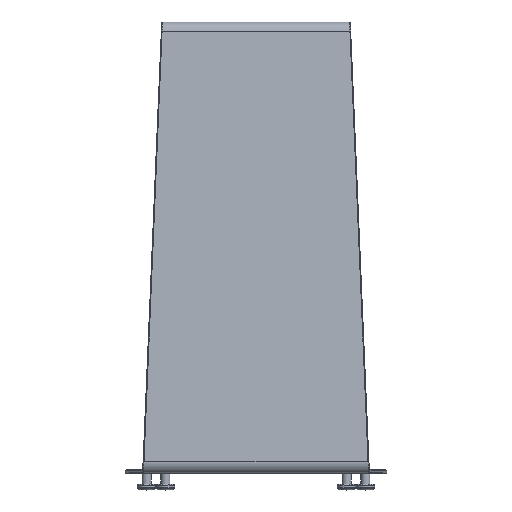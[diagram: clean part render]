
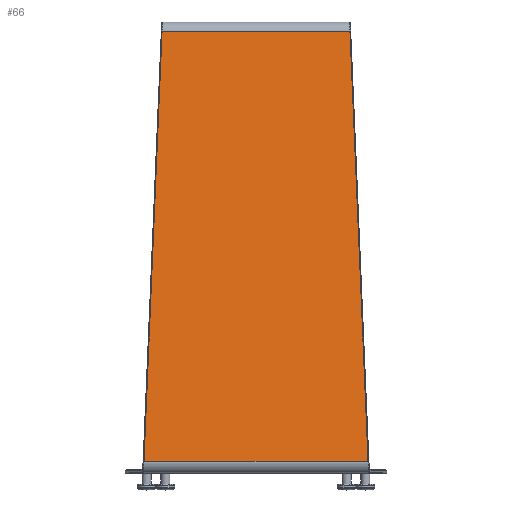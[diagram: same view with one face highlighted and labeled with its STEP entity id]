
A CAD part, left-side view. The second image highlights one B-rep face of the part: STEP entity #66.
In plain terms, the highlighted free-form (B-spline) face has degree [2, 1] with [3, 2] control points.
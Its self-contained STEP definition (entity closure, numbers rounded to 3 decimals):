
#66=ADVANCED_FACE('',(#187),#1616,.T.);
#187=FACE_OUTER_BOUND('',#322,.T.);
#322=EDGE_LOOP('',(#512,#513,#514,#515));
#512=ORIENTED_EDGE('',*,*,#981,.T.);
#513=ORIENTED_EDGE('',*,*,#955,.T.);
#514=ORIENTED_EDGE('',*,*,#968,.F.);
#515=ORIENTED_EDGE('',*,*,#954,.F.);
#954=EDGE_CURVE('',#1465,#1464,#1247,.T.);
#955=EDGE_CURVE('',#1466,#1467,#1248,.T.);
#968=EDGE_CURVE('',#1464,#1467,#1261,.T.);
#981=EDGE_CURVE('',#1465,#1466,#1274,.T.);
#1247=(
BOUNDED_CURVE()
B_SPLINE_CURVE(1,(#6018,#6019),.UNSPECIFIED.,.F.,.F.)
B_SPLINE_CURVE_WITH_KNOTS((2,2),(31.583,328.417),
 .UNSPECIFIED.)
CURVE()
GEOMETRIC_REPRESENTATION_ITEM()
RATIONAL_B_SPLINE_CURVE((1.,1.))
REPRESENTATION_ITEM('')
);
#1248=(
BOUNDED_CURVE()
B_SPLINE_CURVE(1,(#6020,#6021),.UNSPECIFIED.,.F.,.F.)
B_SPLINE_CURVE_WITH_KNOTS((2,2),(55.569,304.431),
 .UNSPECIFIED.)
CURVE()
GEOMETRIC_REPRESENTATION_ITEM()
RATIONAL_B_SPLINE_CURVE((1.,1.))
REPRESENTATION_ITEM('')
);
#1261=(
BOUNDED_CURVE()
B_SPLINE_CURVE(3,(#6195,#6196,#6197,#6198,#6199,#6200,#6201,#6202,#6203,
#6204,#6205,#6206,#6207,#6208,#6209,#6210,#6211,#6212,#6213,#6214,#6215,
#6216,#6217,#6218,#6219,#6220,#6221,#6222,#6223,#6224,#6225,#6226,#6227,
#6228,#6229,#6230,#6231,#6232,#6233,#6234,#6235),.UNSPECIFIED.,.F.,.F.)
B_SPLINE_CURVE_WITH_KNOTS((4,3,3,3,3,1,1,1,1,1,1,1,1,1,1,3,3,3,1,1,1,3,
4),(0.039,0.155,0.447,0.593,
0.737,5.476,119.109,218.51,317.913,
417.318,517.875,547.35,559.775,562.086,
566.024,570.269,570.844,571.421,572.083,
573.067,573.722,574.305,574.814),
 .UNSPECIFIED.)
CURVE()
GEOMETRIC_REPRESENTATION_ITEM()
RATIONAL_B_SPLINE_CURVE((1.,1.,1.,1.,1.,1.,1.,1.,1.,1.,1.,
1.,1.,1.,1.,1.,1.,1.,1.,1.,
1.,1.,1.,1.,1.,1.,1.,1.,1.,
1.,1.,1.,1.,1.,1.,1.,1.,1.,1.,1.,1.))
REPRESENTATION_ITEM('')
);
#1274=(
BOUNDED_CURVE()
B_SPLINE_CURVE(3,(#6544,#6545,#6546,#6547,#6548,#6549,#6550,#6551,#6552,
#6553,#6554,#6555,#6556,#6557,#6558,#6559,#6560,#6561,#6562,#6563,#6564,
#6565,#6566,#6567,#6568,#6569,#6570,#6571,#6572,#6573,#6574,#6575,#6576,
#6577,#6578,#6579,#6580,#6581,#6582,#6583,#6584),.UNSPECIFIED.,.F.,.F.)
B_SPLINE_CURVE_WITH_KNOTS((4,3,3,3,3,1,1,1,1,1,1,1,1,1,1,3,3,3,1,1,1,3,
4),(0.039,0.155,0.447,0.593,
0.737,5.476,119.109,218.51,317.913,
417.318,517.875,547.35,559.775,562.086,
566.024,570.269,570.844,571.421,572.083,
573.067,573.722,574.305,574.814),
 .UNSPECIFIED.)
CURVE()
GEOMETRIC_REPRESENTATION_ITEM()
RATIONAL_B_SPLINE_CURVE((1.,1.,1.,1.,1.,1.,
1.,1.,1.,1.,1.,1.,1.,1.,1.,1.,1.,1.,1.,1.,
1.,1.,1.,1.,1.,1.,1.,1.,1.,1.,1.,1.,1.,1.,
1.,1.,1.,1.,1.,1.,1.))
REPRESENTATION_ITEM('')
);
#1464=VERTEX_POINT('',#5896);
#1465=VERTEX_POINT('',#5897);
#1466=VERTEX_POINT('',#5898);
#1467=VERTEX_POINT('',#5899);
#1616=(
BOUNDED_SURFACE()
B_SPLINE_SURFACE(2,1,((#1964,#1965),(#1966,#1967),(#1968,#1969)),
 .UNSPECIFIED.,.F.,.F.,.F.)
B_SPLINE_SURFACE_WITH_KNOTS((3,3),(2,2),(-820.3,-246.025),
(0.,360.),.UNSPECIFIED.)
GEOMETRIC_REPRESENTATION_ITEM()
RATIONAL_B_SPLINE_SURFACE(((1.,1.),(1.,1.),(1.,1.)))
REPRESENTATION_ITEM('')
SURFACE()
);
#1964=CARTESIAN_POINT('',(-204.682,-180.,38.084));
#1965=CARTESIAN_POINT('',(-204.682,180.,38.084));
#1966=CARTESIAN_POINT('',(-167.732,-180.,322.834));
#1967=CARTESIAN_POINT('',(-167.732,180.,322.834));
#1968=CARTESIAN_POINT('',(-130.782,-180.,607.584));
#1969=CARTESIAN_POINT('',(-130.782,180.,607.584));
#5896=CARTESIAN_POINT('',(-204.682,148.417,38.084));
#5897=CARTESIAN_POINT('',(-204.682,-148.417,38.084));
#5898=CARTESIAN_POINT('',(-130.782,-124.431,607.584));
#5899=CARTESIAN_POINT('',(-130.782,124.431,607.584));
#6018=CARTESIAN_POINT('',(-204.682,-148.417,38.084));
#6019=CARTESIAN_POINT('',(-204.682,148.417,38.084));
#6020=CARTESIAN_POINT('',(-130.782,-124.431,607.584));
#6021=CARTESIAN_POINT('',(-130.782,124.431,607.584));
#6195=CARTESIAN_POINT('',(-204.682,148.417,38.084));
#6196=CARTESIAN_POINT('',(-204.677,148.415,38.122));
#6197=CARTESIAN_POINT('',(-204.672,148.414,38.16));
#6198=CARTESIAN_POINT('',(-204.667,148.412,38.199));
#6199=CARTESIAN_POINT('',(-204.654,148.408,38.295));
#6200=CARTESIAN_POINT('',(-204.642,148.404,38.392));
#6201=CARTESIAN_POINT('',(-204.629,148.4,38.488));
#6202=CARTESIAN_POINT('',(-204.623,148.398,38.536));
#6203=CARTESIAN_POINT('',(-204.617,148.396,38.585));
#6204=CARTESIAN_POINT('',(-204.61,148.394,38.633));
#6205=CARTESIAN_POINT('',(-204.604,148.392,38.681));
#6206=CARTESIAN_POINT('',(-204.598,148.39,38.728));
#6207=CARTESIAN_POINT('',(-204.592,148.388,38.775));
#6208=CARTESIAN_POINT('',(-204.389,148.321,40.34));
#6209=CARTESIAN_POINT('',(-199.316,146.67,79.435));
#6210=CARTESIAN_POINT('',(-189.983,143.633,151.36));
#6211=CARTESIAN_POINT('',(-176.593,139.279,254.549));
#6212=CARTESIAN_POINT('',(-163.812,135.129,353.04));
#6213=CARTESIAN_POINT('',(-150.983,130.967,451.913));
#6214=CARTESIAN_POINT('',(-141.15,127.783,527.69));
#6215=CARTESIAN_POINT('',(-135.044,125.809,574.74));
#6216=CARTESIAN_POINT('',(-133.15,125.196,589.342));
#6217=CARTESIAN_POINT('',(-132.349,124.938,595.51));
#6218=CARTESIAN_POINT('',(-131.899,124.792,598.976));
#6219=CARTESIAN_POINT('',(-131.549,124.679,601.678));
#6220=CARTESIAN_POINT('',(-131.367,124.62,603.08));
#6221=CARTESIAN_POINT('',(-131.342,124.612,603.27));
#6222=CARTESIAN_POINT('',(-131.318,124.604,603.46));
#6223=CARTESIAN_POINT('',(-131.293,124.596,603.65));
#6224=CARTESIAN_POINT('',(-131.268,124.588,603.841));
#6225=CARTESIAN_POINT('',(-131.243,124.58,604.031));
#6226=CARTESIAN_POINT('',(-131.219,124.572,604.222));
#6227=CARTESIAN_POINT('',(-131.19,124.563,604.441));
#6228=CARTESIAN_POINT('',(-131.12,124.54,604.984));
#6229=CARTESIAN_POINT('',(-131.021,124.508,605.744));
#6230=CARTESIAN_POINT('',(-130.926,124.478,606.478));
#6231=CARTESIAN_POINT('',(-130.873,124.461,606.887));
#6232=CARTESIAN_POINT('',(-130.848,124.452,607.079));
#6233=CARTESIAN_POINT('',(-130.826,124.445,607.248));
#6234=CARTESIAN_POINT('',(-130.804,124.438,607.416));
#6235=CARTESIAN_POINT('',(-130.782,124.431,607.584));
#6544=CARTESIAN_POINT('',(-204.682,-148.417,38.084));
#6545=CARTESIAN_POINT('',(-204.677,-148.415,38.122));
#6546=CARTESIAN_POINT('',(-204.672,-148.414,38.16));
#6547=CARTESIAN_POINT('',(-204.667,-148.412,38.199));
#6548=CARTESIAN_POINT('',(-204.654,-148.408,38.295));
#6549=CARTESIAN_POINT('',(-204.642,-148.404,38.392));
#6550=CARTESIAN_POINT('',(-204.629,-148.4,38.488));
#6551=CARTESIAN_POINT('',(-204.623,-148.398,38.536));
#6552=CARTESIAN_POINT('',(-204.617,-148.396,38.585));
#6553=CARTESIAN_POINT('',(-204.61,-148.394,38.633));
#6554=CARTESIAN_POINT('',(-204.604,-148.392,38.681));
#6555=CARTESIAN_POINT('',(-204.598,-148.39,38.728));
#6556=CARTESIAN_POINT('',(-204.592,-148.388,38.775));
#6557=CARTESIAN_POINT('',(-204.389,-148.321,40.34));
#6558=CARTESIAN_POINT('',(-199.316,-146.67,79.435));
#6559=CARTESIAN_POINT('',(-189.983,-143.633,151.36));
#6560=CARTESIAN_POINT('',(-176.593,-139.279,254.549));
#6561=CARTESIAN_POINT('',(-163.812,-135.129,353.04));
#6562=CARTESIAN_POINT('',(-150.983,-130.967,451.913));
#6563=CARTESIAN_POINT('',(-141.15,-127.783,527.69));
#6564=CARTESIAN_POINT('',(-135.044,-125.809,574.74));
#6565=CARTESIAN_POINT('',(-133.15,-125.196,589.342));
#6566=CARTESIAN_POINT('',(-132.349,-124.938,595.51));
#6567=CARTESIAN_POINT('',(-131.899,-124.792,598.976));
#6568=CARTESIAN_POINT('',(-131.549,-124.679,601.678));
#6569=CARTESIAN_POINT('',(-131.367,-124.62,603.08));
#6570=CARTESIAN_POINT('',(-131.342,-124.612,603.27));
#6571=CARTESIAN_POINT('',(-131.318,-124.604,603.46));
#6572=CARTESIAN_POINT('',(-131.293,-124.596,603.65));
#6573=CARTESIAN_POINT('',(-131.268,-124.588,603.841));
#6574=CARTESIAN_POINT('',(-131.243,-124.58,604.031));
#6575=CARTESIAN_POINT('',(-131.219,-124.572,604.222));
#6576=CARTESIAN_POINT('',(-131.19,-124.563,604.441));
#6577=CARTESIAN_POINT('',(-131.12,-124.54,604.984));
#6578=CARTESIAN_POINT('',(-131.021,-124.508,605.744));
#6579=CARTESIAN_POINT('',(-130.926,-124.478,606.478));
#6580=CARTESIAN_POINT('',(-130.873,-124.461,606.887));
#6581=CARTESIAN_POINT('',(-130.848,-124.452,607.079));
#6582=CARTESIAN_POINT('',(-130.826,-124.445,607.248));
#6583=CARTESIAN_POINT('',(-130.804,-124.438,607.416));
#6584=CARTESIAN_POINT('',(-130.782,-124.431,607.584));
